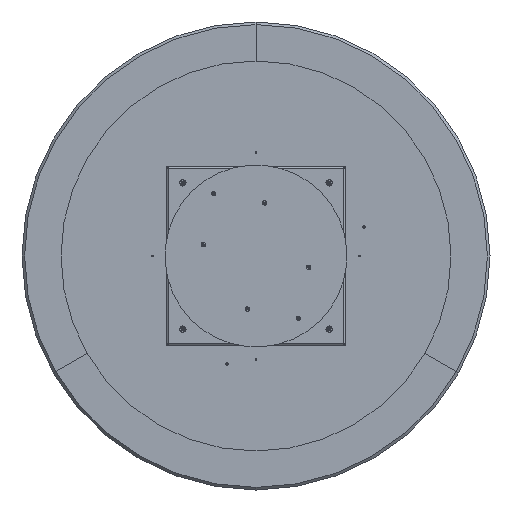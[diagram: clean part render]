
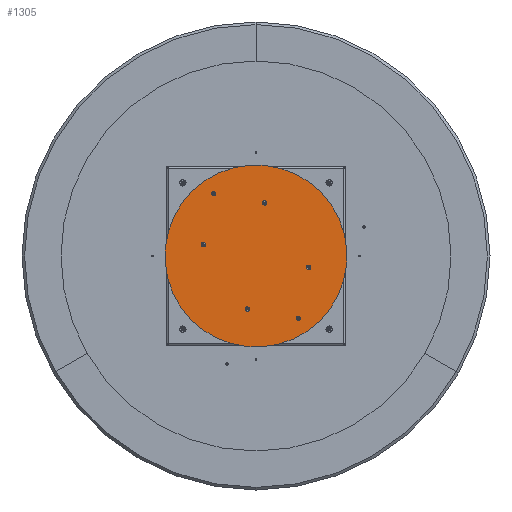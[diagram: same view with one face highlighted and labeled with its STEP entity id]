
A CAD part, front view. The second image highlights one B-rep face of the part: STEP entity #1305.
In plain terms, the highlighted planar face has unit normal (0, -1, 0).
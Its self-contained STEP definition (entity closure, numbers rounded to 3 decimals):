
#109 = FACE_BOUND ( 'NONE', #20916, .T. ) ;
#142 = VERTEX_POINT ( 'NONE', #12790 ) ;
#187 = CARTESIAN_POINT ( 'NONE',  ( -150., 0., -133.85 ) ) ;
#389 = CARTESIAN_POINT ( 'NONE',  ( -290., 0., 0. ) ) ;
#617 = FACE_BOUND ( 'NONE', #24532, .T. ) ;
#620 = DIRECTION ( 'NONE',  ( 0., 0., 1. ) ) ;
#858 = CIRCLE ( 'NONE', #22572, 8.65 ) ;
#870 = DIRECTION ( 'NONE',  ( 0., 0., -1. ) ) ;
#1305 = ADVANCED_FACE ( 'NONE', ( #15890, #109, #617, #4072, #3945, #12297, #23838 ), #10238, .F. ) ;
#1530 = DIRECTION ( 'NONE',  ( 0., 0., -1. ) ) ;
#1547 = CARTESIAN_POINT ( 'NONE',  ( -150., 0., -142.5 ) ) ;
#1770 = EDGE_CURVE ( 'NONE', #11511, #19239, #18182, .T. ) ;
#1798 = CARTESIAN_POINT ( 'NONE',  ( -150., 0., 142.5 ) ) ;
#1868 = CIRCLE ( 'NONE', #14232, 350. ) ;
#2372 = DIRECTION ( 'NONE',  ( 0., 0., -1. ) ) ;
#2423 = CIRCLE ( 'NONE', #16779, 8.65 ) ;
#2629 = CARTESIAN_POINT ( 'NONE',  ( -150., 0., 133.85 ) ) ;
#2688 = ORIENTED_EDGE ( 'NONE', *, *, #1770, .F. ) ;
#3055 = CARTESIAN_POINT ( 'NONE',  ( 150., 0., 133.85 ) ) ;
#3076 = AXIS2_PLACEMENT_3D ( 'NONE', #389, #23865, #6287 ) ;
#3558 = EDGE_CURVE ( 'NONE', #142, #8633, #21099, .T. ) ;
#3848 = DIRECTION ( 'NONE',  ( 0., 1., 0. ) ) ;
#3945 = FACE_BOUND ( 'NONE', #17019, .T. ) ;
#3987 = ORIENTED_EDGE ( 'NONE', *, *, #3558, .F. ) ;
#4072 = FACE_BOUND ( 'NONE', #4399, .T. ) ;
#4183 = VERTEX_POINT ( 'NONE', #4265 ) ;
#4197 = CARTESIAN_POINT ( 'NONE',  ( -150., 0., 151.15 ) ) ;
#4265 = CARTESIAN_POINT ( 'NONE',  ( -150., 0., -151.15 ) ) ;
#4326 = ORIENTED_EDGE ( 'NONE', *, *, #7390, .F. ) ;
#4366 = CARTESIAN_POINT ( 'NONE',  ( 150., 0., -142.5 ) ) ;
#4399 = EDGE_LOOP ( 'NONE', ( #2688, #7813 ) ) ;
#4556 = CIRCLE ( 'NONE', #11518, 8.65 ) ;
#4997 = CARTESIAN_POINT ( 'NONE',  ( 150., 0., 142.5 ) ) ;
#5149 = DIRECTION ( 'NONE',  ( 0., 0., -1. ) ) ;
#5185 = CARTESIAN_POINT ( 'NONE',  ( 290., 0., 8.65 ) ) ;
#5278 = DIRECTION ( 'NONE',  ( 0., -1., 0. ) ) ;
#5305 = EDGE_CURVE ( 'NONE', #10487, #5745, #1868, .T. ) ;
#5745 = VERTEX_POINT ( 'NONE', #25151 ) ;
#6074 = CARTESIAN_POINT ( 'NONE',  ( 150., 0., -142.5 ) ) ;
#6251 = EDGE_CURVE ( 'NONE', #8131, #17290, #6414, .T. ) ;
#6287 = DIRECTION ( 'NONE',  ( 0., 0., -1. ) ) ;
#6414 = CIRCLE ( 'NONE', #6813, 8.65 ) ;
#6458 = VERTEX_POINT ( 'NONE', #21645 ) ;
#6813 = AXIS2_PLACEMENT_3D ( 'NONE', #4997, #17193, #12835 ) ;
#7390 = EDGE_CURVE ( 'NONE', #16266, #24528, #21604, .T. ) ;
#7664 = AXIS2_PLACEMENT_3D ( 'NONE', #1547, #5278, #5149 ) ;
#7813 = ORIENTED_EDGE ( 'NONE', *, *, #23550, .F. ) ;
#8131 = VERTEX_POINT ( 'NONE', #19799 ) ;
#8629 = DIRECTION ( 'NONE',  ( 0., -1., 0. ) ) ;
#8633 = VERTEX_POINT ( 'NONE', #11560 ) ;
#9060 = AXIS2_PLACEMENT_3D ( 'NONE', #6074, #15835, #19173 ) ;
#9444 = AXIS2_PLACEMENT_3D ( 'NONE', #4366, #21554, #24000 ) ;
#9607 = DIRECTION ( 'NONE',  ( 0., -1., 0. ) ) ;
#10238 = PLANE ( 'NONE',  #14473 ) ;
#10361 = CARTESIAN_POINT ( 'NONE',  ( 0., 0., 0. ) ) ;
#10380 = CARTESIAN_POINT ( 'NONE',  ( 150., 0., -151.15 ) ) ;
#10487 = VERTEX_POINT ( 'NONE', #16287 ) ;
#10800 = CARTESIAN_POINT ( 'NONE',  ( -150., 0., 142.5 ) ) ;
#11251 = VERTEX_POINT ( 'NONE', #187 ) ;
#11269 = EDGE_CURVE ( 'NONE', #12996, #6458, #25028, .T. ) ;
#11324 = CARTESIAN_POINT ( 'NONE',  ( 150., 0., 142.5 ) ) ;
#11511 = VERTEX_POINT ( 'NONE', #24531 ) ;
#11518 = AXIS2_PLACEMENT_3D ( 'NONE', #19478, #9607, #1530 ) ;
#11560 = CARTESIAN_POINT ( 'NONE',  ( -290., 0., -8.65 ) ) ;
#11748 = CARTESIAN_POINT ( 'NONE',  ( 290., 0., 0. ) ) ;
#12103 = ORIENTED_EDGE ( 'NONE', *, *, #21939, .F. ) ;
#12165 = DIRECTION ( 'NONE',  ( 0., 1., 0. ) ) ;
#12297 = FACE_BOUND ( 'NONE', #22351, .T. ) ;
#12320 = EDGE_CURVE ( 'NONE', #17290, #8131, #23476, .T. ) ;
#12790 = CARTESIAN_POINT ( 'NONE',  ( -290., 0., 8.65 ) ) ;
#12835 = DIRECTION ( 'NONE',  ( 0., 0., -1. ) ) ;
#12996 = VERTEX_POINT ( 'NONE', #10380 ) ;
#13411 = ORIENTED_EDGE ( 'NONE', *, *, #18675, .F. ) ;
#13534 = ORIENTED_EDGE ( 'NONE', *, *, #12320, .F. ) ;
#13616 = DIRECTION ( 'NONE',  ( 0., -1., 0. ) ) ;
#13935 = DIRECTION ( 'NONE',  ( 0., -1., 0. ) ) ;
#13938 = ORIENTED_EDGE ( 'NONE', *, *, #5305, .F. ) ;
#14224 = CARTESIAN_POINT ( 'NONE',  ( 0., 0., 0. ) ) ;
#14232 = AXIS2_PLACEMENT_3D ( 'NONE', #10361, #12165, #620 ) ;
#14455 = EDGE_LOOP ( 'NONE', ( #21560, #3987 ) ) ;
#14473 = AXIS2_PLACEMENT_3D ( 'NONE', #14224, #19987, #16015 ) ;
#14593 = CARTESIAN_POINT ( 'NONE',  ( 290., 0., 0. ) ) ;
#15835 = DIRECTION ( 'NONE',  ( 0., -1., 0. ) ) ;
#15890 = FACE_BOUND ( 'NONE', #14455, .T. ) ;
#16015 = DIRECTION ( 'NONE',  ( 0., 0., 1. ) ) ;
#16049 = DIRECTION ( 'NONE',  ( 0., 0., 1. ) ) ;
#16266 = VERTEX_POINT ( 'NONE', #4197 ) ;
#16287 = CARTESIAN_POINT ( 'NONE',  ( 0., 0., -350. ) ) ;
#16419 = CIRCLE ( 'NONE', #9444, 8.65 ) ;
#16462 = DIRECTION ( 'NONE',  ( 0., 0., -1. ) ) ;
#16727 = CIRCLE ( 'NONE', #21236, 8.65 ) ;
#16779 = AXIS2_PLACEMENT_3D ( 'NONE', #20352, #18434, #870 ) ;
#17019 = EDGE_LOOP ( 'NONE', ( #13534, #25317 ) ) ;
#17193 = DIRECTION ( 'NONE',  ( 0., -1., 0. ) ) ;
#17290 = VERTEX_POINT ( 'NONE', #3055 ) ;
#17707 = DIRECTION ( 'NONE',  ( 0., 0., -1. ) ) ;
#17911 = AXIS2_PLACEMENT_3D ( 'NONE', #19631, #3848, #16049 ) ;
#18182 = CIRCLE ( 'NONE', #21028, 8.65 ) ;
#18434 = DIRECTION ( 'NONE',  ( 0., -1., 0. ) ) ;
#18536 = EDGE_CURVE ( 'NONE', #11251, #4183, #22012, .T. ) ;
#18675 = EDGE_CURVE ( 'NONE', #5745, #10487, #23234, .T. ) ;
#18684 = EDGE_LOOP ( 'NONE', ( #13938, #13411 ) ) ;
#19151 = DIRECTION ( 'NONE',  ( 0., 0., -1. ) ) ;
#19167 = ORIENTED_EDGE ( 'NONE', *, *, #22216, .F. ) ;
#19173 = DIRECTION ( 'NONE',  ( 0., 0., -1. ) ) ;
#19239 = VERTEX_POINT ( 'NONE', #5185 ) ;
#19478 = CARTESIAN_POINT ( 'NONE',  ( -150., 0., -142.5 ) ) ;
#19597 = EDGE_CURVE ( 'NONE', #24528, #16266, #16727, .T. ) ;
#19631 = CARTESIAN_POINT ( 'NONE',  ( 0., 0., 0. ) ) ;
#19799 = CARTESIAN_POINT ( 'NONE',  ( 150., 0., 151.15 ) ) ;
#19987 = DIRECTION ( 'NONE',  ( 0., 1., 0. ) ) ;
#20352 = CARTESIAN_POINT ( 'NONE',  ( -290., 0., 0. ) ) ;
#20718 = EDGE_CURVE ( 'NONE', #8633, #142, #2423, .T. ) ;
#20904 = ORIENTED_EDGE ( 'NONE', *, *, #18536, .F. ) ;
#20916 = EDGE_LOOP ( 'NONE', ( #19167, #20904 ) ) ;
#21004 = AXIS2_PLACEMENT_3D ( 'NONE', #11324, #23253, #19151 ) ;
#21028 = AXIS2_PLACEMENT_3D ( 'NONE', #11748, #13935, #2372 ) ;
#21099 = CIRCLE ( 'NONE', #3076, 8.65 ) ;
#21236 = AXIS2_PLACEMENT_3D ( 'NONE', #10800, #8629, #16462 ) ;
#21280 = ORIENTED_EDGE ( 'NONE', *, *, #19597, .F. ) ;
#21554 = DIRECTION ( 'NONE',  ( 0., -1., 0. ) ) ;
#21560 = ORIENTED_EDGE ( 'NONE', *, *, #20718, .F. ) ;
#21604 = CIRCLE ( 'NONE', #24079, 8.65 ) ;
#21645 = CARTESIAN_POINT ( 'NONE',  ( 150., 0., -133.85 ) ) ;
#21939 = EDGE_CURVE ( 'NONE', #6458, #12996, #16419, .T. ) ;
#22012 = CIRCLE ( 'NONE', #7664, 8.65 ) ;
#22216 = EDGE_CURVE ( 'NONE', #4183, #11251, #4556, .T. ) ;
#22351 = EDGE_LOOP ( 'NONE', ( #21280, #4326 ) ) ;
#22572 = AXIS2_PLACEMENT_3D ( 'NONE', #14593, #24336, #24451 ) ;
#22859 = ORIENTED_EDGE ( 'NONE', *, *, #11269, .F. ) ;
#23234 = CIRCLE ( 'NONE', #17911, 350. ) ;
#23253 = DIRECTION ( 'NONE',  ( 0., -1., 0. ) ) ;
#23476 = CIRCLE ( 'NONE', #21004, 8.65 ) ;
#23550 = EDGE_CURVE ( 'NONE', #19239, #11511, #858, .T. ) ;
#23838 = FACE_OUTER_BOUND ( 'NONE', #18684, .T. ) ;
#23865 = DIRECTION ( 'NONE',  ( 0., -1., 0. ) ) ;
#24000 = DIRECTION ( 'NONE',  ( 0., 0., -1. ) ) ;
#24079 = AXIS2_PLACEMENT_3D ( 'NONE', #1798, #13616, #17707 ) ;
#24336 = DIRECTION ( 'NONE',  ( 0., -1., 0. ) ) ;
#24451 = DIRECTION ( 'NONE',  ( 0., 0., -1. ) ) ;
#24528 = VERTEX_POINT ( 'NONE', #2629 ) ;
#24531 = CARTESIAN_POINT ( 'NONE',  ( 290., 0., -8.65 ) ) ;
#24532 = EDGE_LOOP ( 'NONE', ( #22859, #12103 ) ) ;
#25028 = CIRCLE ( 'NONE', #9060, 8.65 ) ;
#25151 = CARTESIAN_POINT ( 'NONE',  ( 0., 0., 350. ) ) ;
#25317 = ORIENTED_EDGE ( 'NONE', *, *, #6251, .F. ) ;
